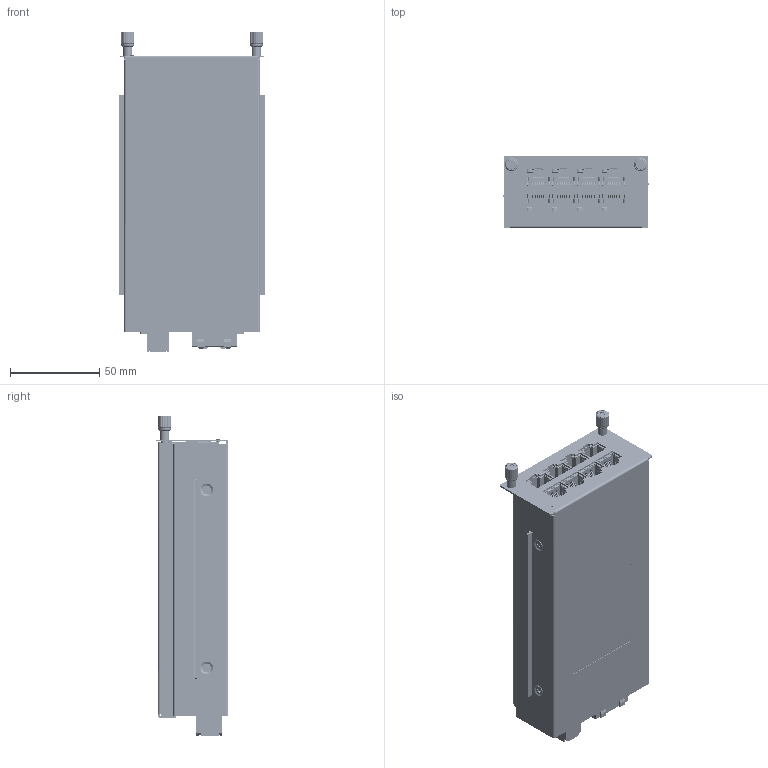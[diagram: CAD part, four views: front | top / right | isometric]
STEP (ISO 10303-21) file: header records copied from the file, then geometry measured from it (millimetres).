
FILE_DESCRIPTION((''),'2;1');
FILE_NAME('888','2026-05-07T16:25:34',('StanJH_Cheng'),('PTC'),'CREO PARAMETRIC BY PTC INC, 2023294','CREO PARAMETRIC BY PTC INC, 2023294','');
FILE_SCHEMA(('AUTOMOTIVE_DESIGN { 1 0 10303 214 1 1 1 1 }'));
Products named in the file (1): 888
Bounding box: 82 x 40.5 x 179.5 mm (x, y, z)
Volume: 29522.3 mm3; surface area: 150168.4 mm2
Topology: 108 solids, 216 shells, 18680 faces, 53196 edges, 34112 vertices
Faces by surface type: plane 16200, cylinder 2094, cone 122, torus 118, bspline 88, sphere 58
Entity records: 718593 total; most frequent: CARTESIAN_POINT 118277, ORIENTED_EDGE 104659, DIRECTION 92320, EDGE_CURVE 53126, VECTOR 47123, LINE 47123, VERTEX_POINT 34112, AXIS2_PLACEMENT_3D 22597
